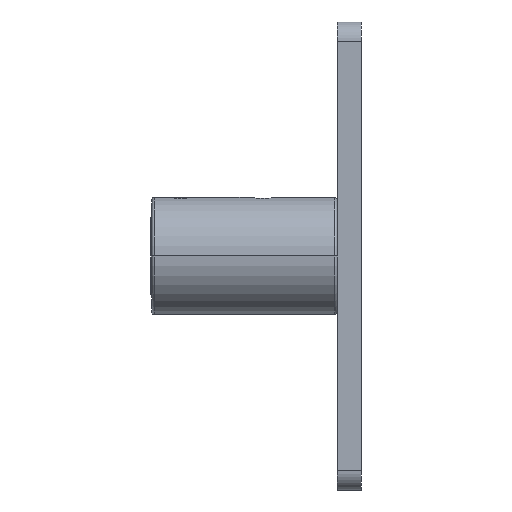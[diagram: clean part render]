
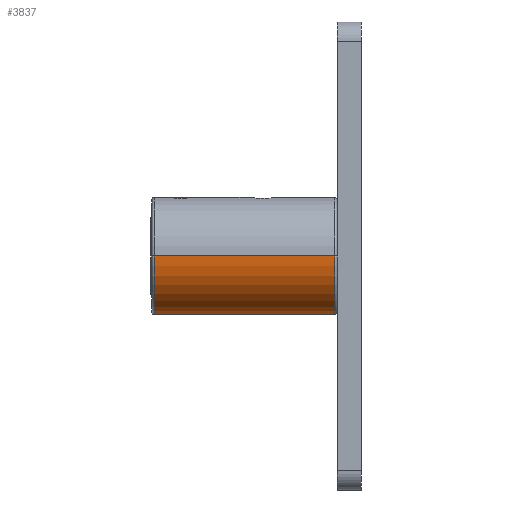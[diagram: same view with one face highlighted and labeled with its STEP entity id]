
A CAD part, left-side view. The second image highlights one B-rep face of the part: STEP entity #3837.
In plain terms, the highlighted cylindrical face has radius 19.05 mm (diameter 38.1 mm), a partial arc.
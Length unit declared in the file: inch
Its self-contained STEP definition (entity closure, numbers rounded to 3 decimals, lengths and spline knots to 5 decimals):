
#41 = LINE ( 'NONE', #855, #217 ) ;
#67 = CARTESIAN_POINT ( 'NONE',  ( -0.75, 0., 2.345 ) ) ;
#84 = DIRECTION ( 'NONE',  ( 0., 0., -1. ) ) ;
#217 = VECTOR ( 'NONE', #2392, 39.37008 ) ;
#371 = ORIENTED_EDGE ( 'NONE', *, *, #1344, .T. ) ;
#404 = FACE_OUTER_BOUND ( 'NONE', #4658, .T. ) ;
#648 = DIRECTION ( 'NONE',  ( 1., 0., 0. ) ) ;
#668 = CARTESIAN_POINT ( 'NONE',  ( 0., 0., 0.03 ) ) ;
#694 = LINE ( 'NONE', #2235, #4981 ) ;
#801 = AXIS2_PLACEMENT_3D ( 'NONE', #844, #84, #1628 ) ;
#844 = CARTESIAN_POINT ( 'NONE',  ( 0., 0., 2.345 ) ) ;
#855 = CARTESIAN_POINT ( 'NONE',  ( 0.75, 0., 2.375 ) ) ;
#1344 = EDGE_CURVE ( 'NONE', #3091, #4456, #3391, .T. ) ;
#1413 = CARTESIAN_POINT ( 'NONE',  ( 0.75, 0., 0.03 ) ) ;
#1478 = DIRECTION ( 'NONE',  ( 0., 0., -1. ) ) ;
#1607 = CARTESIAN_POINT ( 'NONE',  ( 0.75, 0., 2.345 ) ) ;
#1628 = DIRECTION ( 'NONE',  ( 1., 0., 0. ) ) ;
#2235 = CARTESIAN_POINT ( 'NONE',  ( -0.75, 0., 2.375 ) ) ;
#2344 = DIRECTION ( 'NONE',  ( -1., 0., 0. ) ) ;
#2392 = DIRECTION ( 'NONE',  ( 0., 0., -1. ) ) ;
#2529 = EDGE_CURVE ( 'NONE', #3902, #3091, #694, .T. ) ;
#2657 = EDGE_CURVE ( 'NONE', #4376, #4456, #41, .T. ) ;
#2665 = CARTESIAN_POINT ( 'NONE',  ( 0., 0., 2.375 ) ) ;
#2678 = ORIENTED_EDGE ( 'NONE', *, *, #4788, .T. ) ;
#2793 = DIRECTION ( 'NONE',  ( 0., 0., -1. ) ) ;
#2937 = DIRECTION ( 'NONE',  ( 0., 0., 1. ) ) ;
#3062 = ORIENTED_EDGE ( 'NONE', *, *, #2657, .F. ) ;
#3091 = VERTEX_POINT ( 'NONE', #4941 ) ;
#3391 = CIRCLE ( 'NONE', #4428, 0.75 ) ;
#3837 = ADVANCED_FACE ( 'NONE', ( #404 ), #4972, .T. ) ;
#3868 = CIRCLE ( 'NONE', #801, 0.75 ) ;
#3902 = VERTEX_POINT ( 'NONE', #67 ) ;
#4376 = VERTEX_POINT ( 'NONE', #1607 ) ;
#4428 = AXIS2_PLACEMENT_3D ( 'NONE', #668, #2937, #648 ) ;
#4456 = VERTEX_POINT ( 'NONE', #1413 ) ;
#4658 = EDGE_LOOP ( 'NONE', ( #3062, #2678, #4901, #371 ) ) ;
#4721 = AXIS2_PLACEMENT_3D ( 'NONE', #2665, #1478, #2344 ) ;
#4788 = EDGE_CURVE ( 'NONE', #4376, #3902, #3868, .T. ) ;
#4901 = ORIENTED_EDGE ( 'NONE', *, *, #2529, .T. ) ;
#4941 = CARTESIAN_POINT ( 'NONE',  ( -0.75, 0., 0.03 ) ) ;
#4972 = CYLINDRICAL_SURFACE ( 'NONE', #4721, 0.75 ) ;
#4981 = VECTOR ( 'NONE', #2793, 39.37008 ) ;
